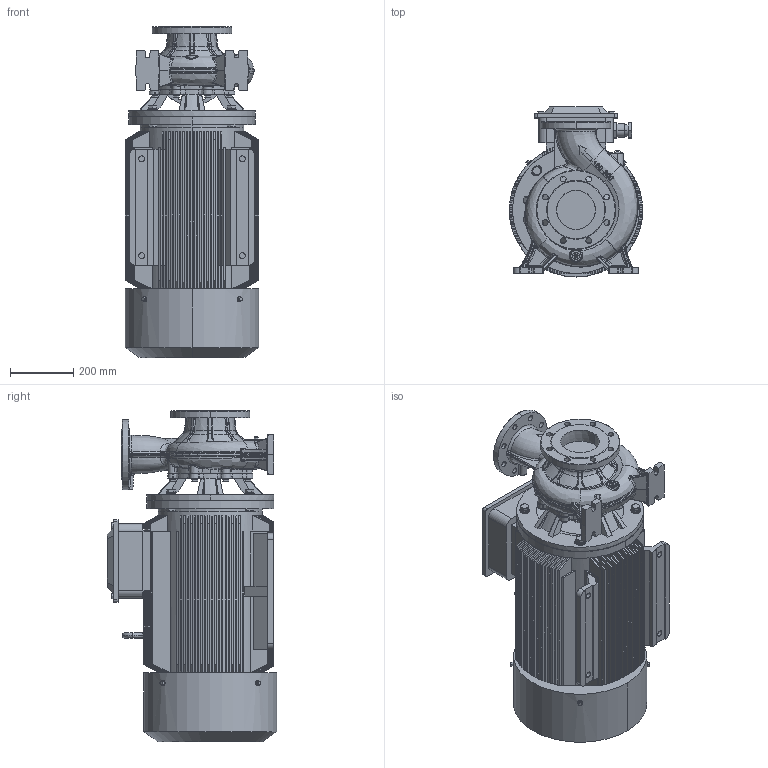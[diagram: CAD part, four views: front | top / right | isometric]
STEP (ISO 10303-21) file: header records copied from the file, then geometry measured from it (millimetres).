
FILE_DESCRIPTION (( 'STEP AP203' ), '1' );
FILE_NAME ('TST100-200-30 安装尺寸图.STEP', '2026-04-29T00:39:36', ( '微软用户' ), ( '微软中国' ), 'SwSTEP 2.0', 'SolidWorks 2020', '' );
FILE_SCHEMA (( 'CONFIG_CONTROL_DESIGN' ));
Products named in the file (1): TST100-200-30 假蚾喜渡芞
Bounding box: 420 x 535 x 1045 mm (x, y, z)
Volume: 108306960.8 mm3; surface area: 5672013.2 mm2
Topology: 1 solids, 1 shells, 2585 faces, 6422 edges, 3928 vertices
Faces by surface type: plane 744, bspline 702, cone 564, cylinder 450, torus 98, sphere 27
Entity records: 118389 total; most frequent: CARTESIAN_POINT 63158, ORIENTED_EDGE 12836, DIRECTION 9820, EDGE_CURVE 6418, AXIS2_PLACEMENT_3D 4032, VERTEX_POINT 3928, EDGE_LOOP 2768, ADVANCED_FACE 2585
